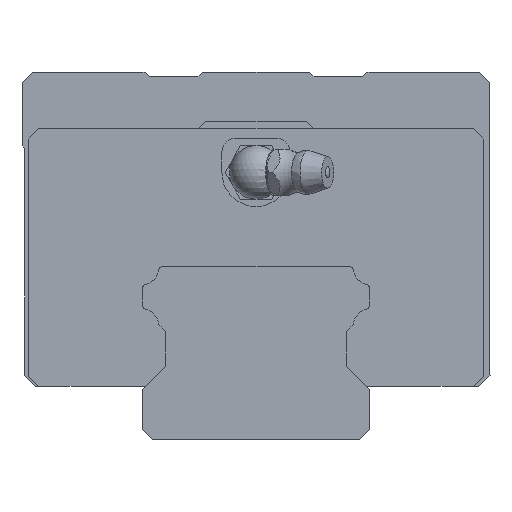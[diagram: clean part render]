
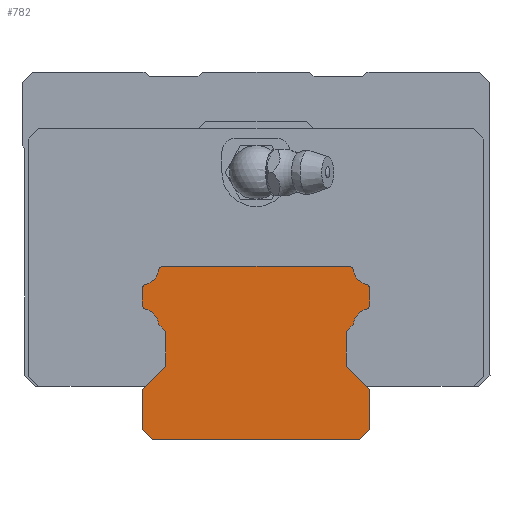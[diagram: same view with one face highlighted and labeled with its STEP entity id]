
A CAD part, front view. The second image highlights one B-rep face of the part: STEP entity #782.
In plain terms, the highlighted planar face has unit normal (0, -1, 0).
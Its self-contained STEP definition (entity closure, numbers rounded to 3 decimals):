
#599=CIRCLE('',#3646,0.8);
#601=CIRCLE('',#3649,2.6);
#603=CIRCLE('',#3662,2.6);
#605=CIRCLE('',#3665,0.8);
#607=CIRCLE('',#3669,0.8);
#609=CIRCLE('',#3672,2.6);
#611=CIRCLE('',#3675,0.8);
#613=CIRCLE('',#3678,0.8);
#615=CIRCLE('',#3681,2.6);
#617=CIRCLE('',#3684,0.8);
#782=ADVANCED_FACE('',(#1034),#915,.T.);
#915=PLANE('',#3688);
#1034=FACE_OUTER_BOUND('',#1259,.T.);
#1259=EDGE_LOOP('',(#1971,#1972,#1973,#1974,#1975,#1976,#1977,#1978,#1979,
#1980,#1981,#1982,#1983,#1984,#1985,#1986,#1987,#1988,#1989,#1990,#1991,
#1992,#1993,#1994));
#1971=ORIENTED_EDGE('',*,*,#2743,.T.);
#1972=ORIENTED_EDGE('',*,*,#2747,.T.);
#1973=ORIENTED_EDGE('',*,*,#2750,.T.);
#1974=ORIENTED_EDGE('',*,*,#2753,.T.);
#1975=ORIENTED_EDGE('',*,*,#2756,.T.);
#1976=ORIENTED_EDGE('',*,*,#2759,.T.);
#1977=ORIENTED_EDGE('',*,*,#2762,.T.);
#1978=ORIENTED_EDGE('',*,*,#2765,.T.);
#1979=ORIENTED_EDGE('',*,*,#2721,.T.);
#1980=ORIENTED_EDGE('',*,*,#2767,.T.);
#1981=ORIENTED_EDGE('',*,*,#2770,.T.);
#1982=ORIENTED_EDGE('',*,*,#2773,.T.);
#1983=ORIENTED_EDGE('',*,*,#2776,.T.);
#1984=ORIENTED_EDGE('',*,*,#2779,.T.);
#1985=ORIENTED_EDGE('',*,*,#2782,.T.);
#1986=ORIENTED_EDGE('',*,*,#2785,.T.);
#1987=ORIENTED_EDGE('',*,*,#2788,.T.);
#1988=ORIENTED_EDGE('',*,*,#2791,.T.);
#1989=ORIENTED_EDGE('',*,*,#2794,.T.);
#1990=ORIENTED_EDGE('',*,*,#2797,.T.);
#1991=ORIENTED_EDGE('',*,*,#2737,.T.);
#1992=ORIENTED_EDGE('',*,*,#2799,.T.);
#1993=ORIENTED_EDGE('',*,*,#2802,.T.);
#1994=ORIENTED_EDGE('',*,*,#2805,.T.);
#2349=VERTEX_POINT('',#5222);
#2350=VERTEX_POINT('',#5223);
#2365=VERTEX_POINT('',#5259);
#2366=VERTEX_POINT('',#5260);
#2371=VERTEX_POINT('',#5272);
#2372=VERTEX_POINT('',#5273);
#2375=VERTEX_POINT('',#5281);
#2377=VERTEX_POINT('',#5287);
#2379=VERTEX_POINT('',#5293);
#2381=VERTEX_POINT('',#5299);
#2383=VERTEX_POINT('',#5305);
#2385=VERTEX_POINT('',#5311);
#2387=VERTEX_POINT('',#5320);
#2389=VERTEX_POINT('',#5326);
#2391=VERTEX_POINT('',#5332);
#2393=VERTEX_POINT('',#5338);
#2395=VERTEX_POINT('',#5344);
#2397=VERTEX_POINT('',#5350);
#2399=VERTEX_POINT('',#5356);
#2401=VERTEX_POINT('',#5362);
#2403=VERTEX_POINT('',#5368);
#2405=VERTEX_POINT('',#5374);
#2407=VERTEX_POINT('',#5383);
#2409=VERTEX_POINT('',#5389);
#2721=EDGE_CURVE('',#2349,#2350,#3070,.T.);
#2737=EDGE_CURVE('',#2365,#2366,#3074,.T.);
#2743=EDGE_CURVE('',#2371,#2372,#3078,.T.);
#2747=EDGE_CURVE('',#2372,#2375,#599,.T.);
#2750=EDGE_CURVE('',#2375,#2377,#601,.T.);
#2753=EDGE_CURVE('',#2377,#2379,#3084,.T.);
#2756=EDGE_CURVE('',#2379,#2381,#3087,.T.);
#2759=EDGE_CURVE('',#2381,#2383,#3090,.T.);
#2762=EDGE_CURVE('',#2383,#2385,#3093,.T.);
#2765=EDGE_CURVE('',#2385,#2349,#3096,.T.);
#2767=EDGE_CURVE('',#2350,#2387,#3098,.T.);
#2770=EDGE_CURVE('',#2387,#2389,#3101,.T.);
#2773=EDGE_CURVE('',#2389,#2391,#3104,.T.);
#2776=EDGE_CURVE('',#2391,#2393,#3107,.T.);
#2779=EDGE_CURVE('',#2393,#2395,#3110,.T.);
#2782=EDGE_CURVE('',#2395,#2397,#603,.T.);
#2785=EDGE_CURVE('',#2397,#2399,#605,.T.);
#2788=EDGE_CURVE('',#2399,#2401,#3115,.T.);
#2791=EDGE_CURVE('',#2401,#2403,#607,.T.);
#2794=EDGE_CURVE('',#2403,#2405,#609,.T.);
#2797=EDGE_CURVE('',#2405,#2365,#611,.T.);
#2799=EDGE_CURVE('',#2366,#2407,#613,.T.);
#2802=EDGE_CURVE('',#2407,#2409,#615,.T.);
#2805=EDGE_CURVE('',#2409,#2371,#617,.T.);
#3070=LINE('',#5221,#3348);
#3074=LINE('',#5258,#3352);
#3078=LINE('',#5271,#3356);
#3084=LINE('',#5292,#3362);
#3087=LINE('',#5298,#3365);
#3090=LINE('',#5304,#3368);
#3093=LINE('',#5310,#3371);
#3096=LINE('',#5316,#3374);
#3098=LINE('',#5319,#3376);
#3101=LINE('',#5325,#3379);
#3104=LINE('',#5331,#3382);
#3107=LINE('',#5337,#3385);
#3110=LINE('',#5343,#3388);
#3115=LINE('',#5361,#3393);
#3348=VECTOR('',#4316,1.);
#3352=VECTOR('',#4354,1.);
#3356=VECTOR('',#4364,1.);
#3362=VECTOR('',#4384,1.);
#3365=VECTOR('',#4389,1.);
#3368=VECTOR('',#4394,1.);
#3371=VECTOR('',#4399,1.);
#3374=VECTOR('',#4404,1.);
#3376=VECTOR('',#4408,1.);
#3379=VECTOR('',#4413,1.);
#3382=VECTOR('',#4418,1.);
#3385=VECTOR('',#4423,1.);
#3388=VECTOR('',#4428,1.);
#3393=VECTOR('',#4447,1.);
#3646=AXIS2_PLACEMENT_3D('',#5280,#4370,#4371);
#3649=AXIS2_PLACEMENT_3D('',#5286,#4377,#4378);
#3662=AXIS2_PLACEMENT_3D('',#5349,#4433,#4434);
#3665=AXIS2_PLACEMENT_3D('',#5355,#4440,#4441);
#3669=AXIS2_PLACEMENT_3D('',#5367,#4452,#4453);
#3672=AXIS2_PLACEMENT_3D('',#5373,#4459,#4460);
#3675=AXIS2_PLACEMENT_3D('',#5379,#4466,#4467);
#3678=AXIS2_PLACEMENT_3D('',#5382,#4472,#4473);
#3681=AXIS2_PLACEMENT_3D('',#5388,#4479,#4480);
#3684=AXIS2_PLACEMENT_3D('',#5394,#4486,#4487);
#3688=AXIS2_PLACEMENT_3D('',#5398,#4494,#4495);
#4316=DIRECTION('',(1.,0.,0.));
#4354=DIRECTION('',(-1.,0.,0.));
#4364=DIRECTION('',(0.,0.,-1.));
#4370=DIRECTION('',(0.,-1.,0.));
#4371=DIRECTION('',(1.,0.,0.));
#4377=DIRECTION('',(0.,1.,0.));
#4378=DIRECTION('',(1.,0.,0.));
#4384=DIRECTION('',(0.707,0.,-0.707));
#4389=DIRECTION('',(0.,0.,-1.));
#4394=DIRECTION('',(-0.707,0.,-0.707));
#4399=DIRECTION('',(0.,0.,-1.));
#4404=DIRECTION('',(0.707,0.,-0.707));
#4408=DIRECTION('',(0.707,0.,0.707));
#4413=DIRECTION('',(0.,0.,1.));
#4418=DIRECTION('',(-0.707,0.,0.707));
#4423=DIRECTION('',(0.,0.,1.));
#4428=DIRECTION('',(0.707,0.,0.707));
#4433=DIRECTION('',(0.,1.,0.));
#4434=DIRECTION('',(1.,0.,0.));
#4440=DIRECTION('',(0.,-1.,0.));
#4441=DIRECTION('',(1.,0.,0.));
#4447=DIRECTION('',(0.,0.,1.));
#4452=DIRECTION('',(0.,-1.,0.));
#4453=DIRECTION('',(1.,0.,0.));
#4459=DIRECTION('',(0.,1.,0.));
#4460=DIRECTION('',(1.,0.,0.));
#4466=DIRECTION('',(0.,-1.,0.));
#4467=DIRECTION('',(1.,0.,0.));
#4472=DIRECTION('',(0.,-1.,0.));
#4473=DIRECTION('',(1.,0.,0.));
#4479=DIRECTION('',(0.,1.,0.));
#4480=DIRECTION('',(1.,0.,0.));
#4486=DIRECTION('',(0.,-1.,0.));
#4487=DIRECTION('',(1.,0.,0.));
#4494=DIRECTION('',(0.,-1.,0.));
#4495=DIRECTION('',(0.,0.,-1.));
#5221=CARTESIAN_POINT('',(-15.5,-95.,0.));
#5222=CARTESIAN_POINT('',(-15.5,-95.,0.));
#5223=CARTESIAN_POINT('',(15.5,-95.,0.));
#5258=CARTESIAN_POINT('',(13.785,-95.,26.));
#5259=CARTESIAN_POINT('',(13.785,-95.,26.));
#5260=CARTESIAN_POINT('',(-13.785,-95.,26.));
#5271=CARTESIAN_POINT('',(-17.,-95.,22.517));
#5272=CARTESIAN_POINT('',(-17.,-95.,22.517));
#5273=CARTESIAN_POINT('',(-17.,-95.,20.283));
#5280=CARTESIAN_POINT('',(-16.2,-95.,20.283));
#5281=CARTESIAN_POINT('',(-16.42,-95.,19.514));
#5286=CARTESIAN_POINT('',(-17.134,-95.,17.014));
#5287=CARTESIAN_POINT('',(-14.545,-95.,17.245));
#5292=CARTESIAN_POINT('',(-14.545,-95.,17.245));
#5293=CARTESIAN_POINT('',(-13.5,-95.,16.2));
#5298=CARTESIAN_POINT('',(-13.5,-95.,16.2));
#5299=CARTESIAN_POINT('',(-13.5,-95.,11.));
#5304=CARTESIAN_POINT('',(-13.5,-95.,11.));
#5305=CARTESIAN_POINT('',(-17.,-95.,7.5));
#5310=CARTESIAN_POINT('',(-17.,-95.,7.5));
#5311=CARTESIAN_POINT('',(-17.,-95.,1.5));
#5316=CARTESIAN_POINT('',(-17.,-95.,1.5));
#5319=CARTESIAN_POINT('',(15.5,-95.,0.));
#5320=CARTESIAN_POINT('',(17.,-95.,1.5));
#5325=CARTESIAN_POINT('',(17.,-95.,1.5));
#5326=CARTESIAN_POINT('',(17.,-95.,7.5));
#5331=CARTESIAN_POINT('',(17.,-95.,7.5));
#5332=CARTESIAN_POINT('',(13.5,-95.,11.));
#5337=CARTESIAN_POINT('',(13.5,-95.,11.));
#5338=CARTESIAN_POINT('',(13.5,-95.,16.2));
#5343=CARTESIAN_POINT('',(13.5,-95.,16.2));
#5344=CARTESIAN_POINT('',(14.545,-95.,17.245));
#5349=CARTESIAN_POINT('',(17.134,-95.,17.014));
#5350=CARTESIAN_POINT('',(16.42,-95.,19.514));
#5355=CARTESIAN_POINT('',(16.2,-95.,20.283));
#5356=CARTESIAN_POINT('',(17.,-95.,20.283));
#5361=CARTESIAN_POINT('',(17.,-95.,20.283));
#5362=CARTESIAN_POINT('',(17.,-95.,22.517));
#5367=CARTESIAN_POINT('',(16.2,-95.,22.517));
#5368=CARTESIAN_POINT('',(16.42,-95.,23.286));
#5373=CARTESIAN_POINT('',(17.134,-95.,25.786));
#5374=CARTESIAN_POINT('',(14.573,-95.,25.338));
#5379=CARTESIAN_POINT('',(13.785,-95.,25.2));
#5382=CARTESIAN_POINT('',(-13.785,-95.,25.2));
#5383=CARTESIAN_POINT('',(-14.573,-95.,25.338));
#5388=CARTESIAN_POINT('',(-17.134,-95.,25.786));
#5389=CARTESIAN_POINT('',(-16.42,-95.,23.286));
#5394=CARTESIAN_POINT('',(-16.2,-95.,22.517));
#5398=CARTESIAN_POINT('',(-16.2,-95.,20.283));
